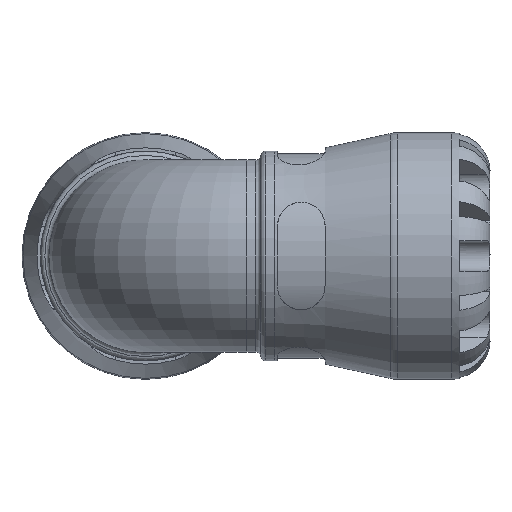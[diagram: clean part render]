
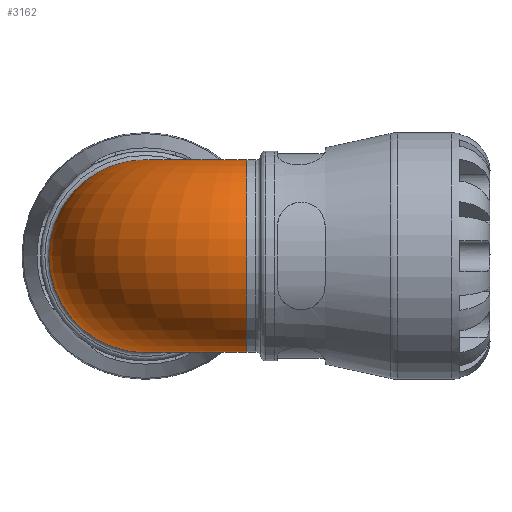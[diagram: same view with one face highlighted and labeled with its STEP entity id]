
A CAD part, front view. The second image highlights one B-rep face of the part: STEP entity #3162.
In plain terms, the highlighted toroidal (fillet/blend) face has major radius 23.875 mm and minor radius 22.62 mm.
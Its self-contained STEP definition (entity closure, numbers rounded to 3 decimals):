
#647=FACE_BOUND('',#881,.T.);
#683=FACE_OUTER_BOUND('',#880,.T.);
#880=EDGE_LOOP('',(#2038));
#881=EDGE_LOOP('',(#2039));
#1112=CIRCLE('',#3363,22.62);
#1113=CIRCLE('',#3364,22.62);
#1282=VERTEX_POINT('',#4626);
#1283=VERTEX_POINT('',#4628);
#1580=EDGE_CURVE('',#1282,#1282,#1112,.T.);
#1581=EDGE_CURVE('',#1283,#1283,#1113,.T.);
#2038=ORIENTED_EDGE('',*,*,#1580,.F.);
#2039=ORIENTED_EDGE('',*,*,#1581,.F.);
#2953=TOROIDAL_SURFACE('',#3362,23.875,22.62);
#3162=ADVANCED_FACE('',(#683,#647),#2953,.T.);
#3362=AXIS2_PLACEMENT_3D('',#4625,#3733,#3734);
#3363=AXIS2_PLACEMENT_3D('',#4627,#3735,#3736);
#3364=AXIS2_PLACEMENT_3D('',#4629,#3737,#3738);
#3733=DIRECTION('center_axis',(0.,0.,1.));
#3734=DIRECTION('ref_axis',(1.,0.,0.));
#3735=DIRECTION('center_axis',(1.,0.,0.));
#3736=DIRECTION('ref_axis',(0.,0.,-1.));
#3737=DIRECTION('center_axis',(0.,1.,0.));
#3738=DIRECTION('ref_axis',(0.,0.,-1.));
#4625=CARTESIAN_POINT('Origin',(23.875,23.875,0.));
#4626=CARTESIAN_POINT('',(23.875,22.62,0.));
#4627=CARTESIAN_POINT('Origin',(23.875,0.,0.));
#4628=CARTESIAN_POINT('',(0.,23.875,-22.62));
#4629=CARTESIAN_POINT('Origin',(0.,23.875,0.));
